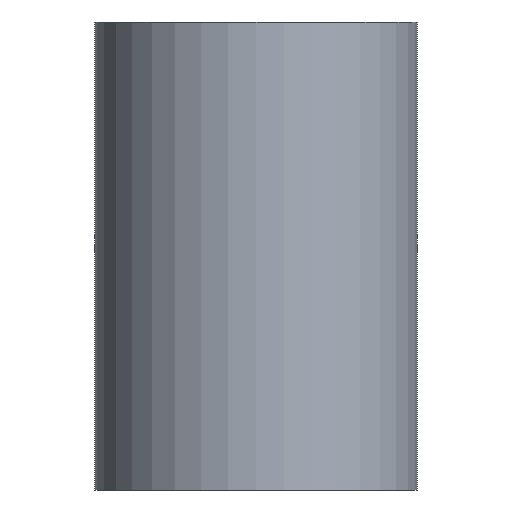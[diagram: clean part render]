
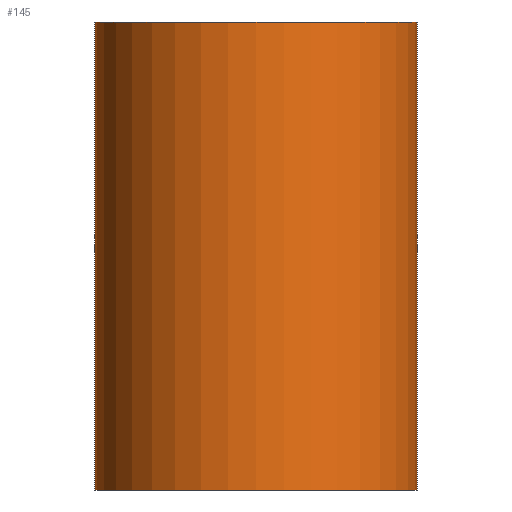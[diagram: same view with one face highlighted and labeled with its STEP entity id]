
A CAD part, front view. The second image highlights one B-rep face of the part: STEP entity #145.
In plain terms, the highlighted cylindrical face has radius 20 mm (diameter 40 mm), a full revolution.
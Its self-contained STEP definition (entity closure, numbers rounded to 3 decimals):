
#32=LINE('',#318,#36);
#36=VECTOR('',#269,20.);
#40=CYLINDRICAL_SURFACE('',#229,20.);
#49=FACE_OUTER_BOUND('',#58,.T.);
#58=EDGE_LOOP('',(#114,#115,#116,#117,#118,#119));
#67=CIRCLE('',#224,20.);
#68=CIRCLE('',#225,20.);
#71=CIRCLE('',#230,20.);
#72=CIRCLE('',#231,20.);
#79=VERTEX_POINT('',#303);
#80=VERTEX_POINT('',#304);
#83=VERTEX_POINT('',#314);
#84=VERTEX_POINT('',#315);
#91=EDGE_CURVE('',#79,#80,#67,.T.);
#92=EDGE_CURVE('',#80,#79,#68,.T.);
#96=EDGE_CURVE('',#83,#84,#71,.T.);
#97=EDGE_CURVE('',#84,#83,#72,.T.);
#98=EDGE_CURVE('',#84,#80,#32,.T.);
#114=ORIENTED_EDGE('',*,*,#96,.F.);
#115=ORIENTED_EDGE('',*,*,#97,.F.);
#116=ORIENTED_EDGE('',*,*,#98,.T.);
#117=ORIENTED_EDGE('',*,*,#91,.F.);
#118=ORIENTED_EDGE('',*,*,#92,.F.);
#119=ORIENTED_EDGE('',*,*,#98,.F.);
#145=ADVANCED_FACE('',(#49),#40,.T.);
#224=AXIS2_PLACEMENT_3D('',#305,#252,#253);
#225=AXIS2_PLACEMENT_3D('',#306,#254,#255);
#229=AXIS2_PLACEMENT_3D('',#313,#263,#264);
#230=AXIS2_PLACEMENT_3D('',#316,#265,#266);
#231=AXIS2_PLACEMENT_3D('',#317,#267,#268);
#252=DIRECTION('center_axis',(0.,0.,-1.));
#253=DIRECTION('ref_axis',(1.,0.,0.));
#254=DIRECTION('center_axis',(0.,0.,-1.));
#255=DIRECTION('ref_axis',(1.,0.,0.));
#263=DIRECTION('center_axis',(0.,0.,1.));
#264=DIRECTION('ref_axis',(1.,0.,0.));
#265=DIRECTION('center_axis',(0.,0.,1.));
#266=DIRECTION('ref_axis',(1.,0.,0.));
#267=DIRECTION('center_axis',(0.,0.,1.));
#268=DIRECTION('ref_axis',(1.,0.,0.));
#269=DIRECTION('',(0.,0.,-1.));
#303=CARTESIAN_POINT('',(20.,0.,-29.));
#304=CARTESIAN_POINT('',(-20.,0.,-29.));
#305=CARTESIAN_POINT('Origin',(0.,0.,-29.));
#306=CARTESIAN_POINT('Origin',(0.,0.,-29.));
#313=CARTESIAN_POINT('Origin',(0.,0.,0.));
#314=CARTESIAN_POINT('',(20.,0.,29.));
#315=CARTESIAN_POINT('',(-20.,0.,29.));
#316=CARTESIAN_POINT('Origin',(0.,0.,29.));
#317=CARTESIAN_POINT('Origin',(0.,0.,29.));
#318=CARTESIAN_POINT('',(-20.,0.,0.));
